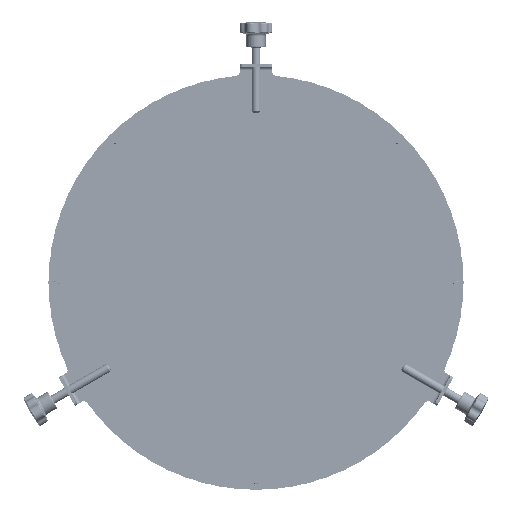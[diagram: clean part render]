
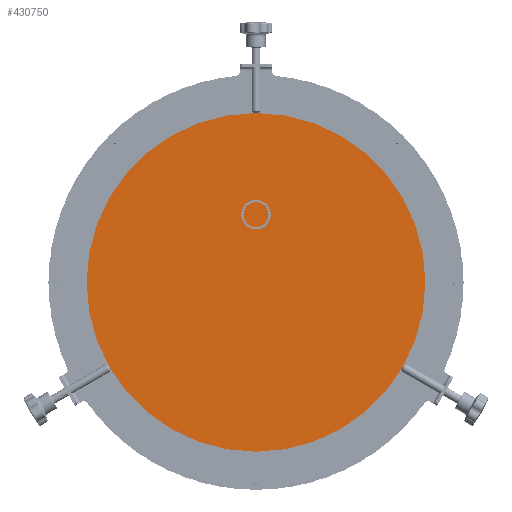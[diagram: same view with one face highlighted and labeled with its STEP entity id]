
A CAD part, front view. The second image highlights one B-rep face of the part: STEP entity #430750.
In plain terms, the highlighted planar face has unit normal (0, -1, 0).
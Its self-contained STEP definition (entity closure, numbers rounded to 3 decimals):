
#25964 = PLANE ( 'NONE',  #419991 ) ;
#50048 = CARTESIAN_POINT ( 'NONE',  ( 0., -362., 0. ) ) ;
#85274 = CARTESIAN_POINT ( 'NONE',  ( 0., -362., 155. ) ) ;
#92200 = DIRECTION ( 'NONE',  ( 0., 0., 1. ) ) ;
#105433 = FACE_OUTER_BOUND ( 'NONE', #286915, .T. ) ;
#132624 = CIRCLE ( 'NONE', #291071, 155. ) ;
#145047 = DIRECTION ( 'NONE',  ( 0., 0., 1. ) ) ;
#174854 = CARTESIAN_POINT ( 'NONE',  ( 0., -362., 0. ) ) ;
#286915 = EDGE_LOOP ( 'NONE', ( #324495 ) ) ;
#291071 = AXIS2_PLACEMENT_3D ( 'NONE', #50048, #424935, #92200 ) ;
#324495 = ORIENTED_EDGE ( 'NONE', *, *, #421827, .T. ) ;
#385613 = VERTEX_POINT ( 'NONE', #85274 ) ;
#403249 = DIRECTION ( 'NONE',  ( 0., -1., 0. ) ) ;
#419991 = AXIS2_PLACEMENT_3D ( 'NONE', #174854, #403249, #145047 ) ;
#421827 = EDGE_CURVE ( 'NONE', #385613, #385613, #132624, .T. ) ;
#424935 = DIRECTION ( 'NONE',  ( 0., -1., 0. ) ) ;
#430750 = ADVANCED_FACE ( 'NONE', ( #105433 ), #25964, .T. ) ;
